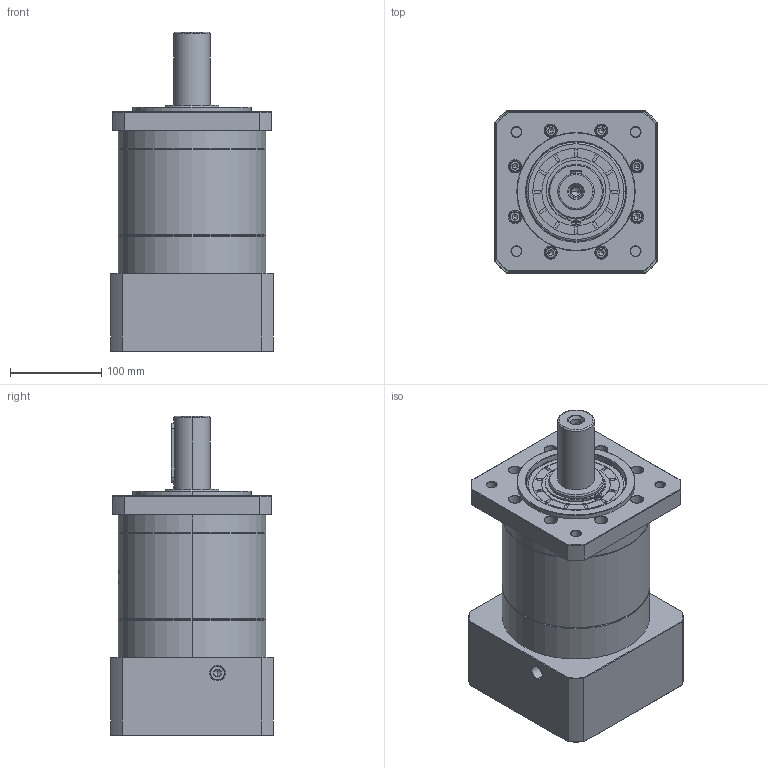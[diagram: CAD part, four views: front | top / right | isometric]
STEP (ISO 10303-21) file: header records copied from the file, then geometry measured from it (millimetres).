
FILE_DESCRIPTION (( 'STEP AP214' ), '1' );
FILE_NAME ('ZF160-D40-L2-42-114.3-200-M12.step', '2023-03-21T04:29:56', ( '' ), ( '' ), 'SwSTEP 2.0', 'SolidWorks 2016', '' );
FILE_SCHEMA (( 'AUTOMOTIVE_DESIGN' ));
Length unit declared in the file: millimetre
Products named in the file (1): ZF160-D40-L2-42-114.3-200-M12
Bounding box: 178 x 178 x 350.2 mm (x, y, z)
Volume: 5909603.4 mm3; surface area: 380409.6 mm2
Topology: 5 solids, 5 shells, 1611 faces, 4175 edges, 2670 vertices
Faces by surface type: plane 642, cylinder 406, cone 323, bspline 218, torus 22
Entity records: 92747 total; most frequent: CARTESIAN_POINT 37826, ORIENTED_EDGE 8290, DIRECTION 7043, EDGE_CURVE 4145, VERTEX_POINT 2670, AXIS2_PLACEMENT_3D 2437, VECTOR 2169, LINE 2169
